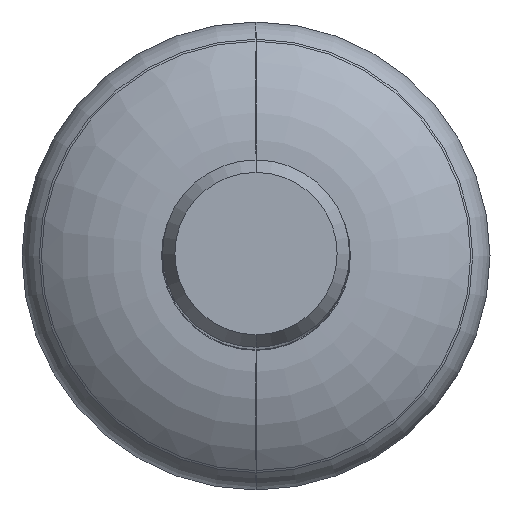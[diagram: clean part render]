
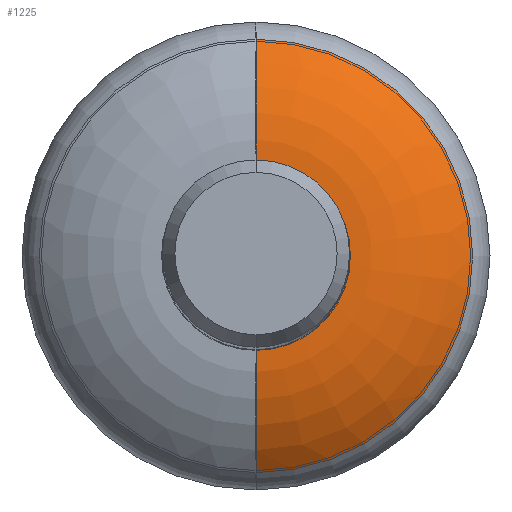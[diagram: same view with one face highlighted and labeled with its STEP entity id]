
A CAD part, top view. The second image highlights one B-rep face of the part: STEP entity #1225.
In plain terms, the highlighted toroidal (fillet/blend) face has major radius 15.132 mm and minor radius 30 mm.
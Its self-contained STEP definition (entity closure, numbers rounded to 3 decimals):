
#21 = CIRCLE ( 'NONE', #3782, 30. ) ;
#895 = EDGE_CURVE ( 'NONE', #4425, #4577, #21, .T. ) ;
#989 = CARTESIAN_POINT ( 'NONE',  ( 0., 15.132, -32. ) ) ;
#1003 = VERTEX_POINT ( 'NONE', #1881 ) ;
#1042 = AXIS2_PLACEMENT_3D ( 'NONE', #4312, #1619, #3600 ) ;
#1125 = CIRCLE ( 'NONE', #1042, 14.159 ) ;
#1176 = CARTESIAN_POINT ( 'NONE',  ( 0., 0., -9.277 ) ) ;
#1225 = ADVANCED_FACE ( 'NONE', ( #3305 ), #1358, .T. ) ;
#1283 = DIRECTION ( 'NONE',  ( -1., 0., 0. ) ) ;
#1358 = TOROIDAL_SURFACE ( 'NONE', #2609, 15.132, 30. ) ;
#1418 = EDGE_CURVE ( 'NONE', #1820, #1003, #2279, .T. ) ;
#1619 = DIRECTION ( 'NONE',  ( 0., 0., -1. ) ) ;
#1671 = ORIENTED_EDGE ( 'NONE', *, *, #2411, .T. ) ;
#1716 = CIRCLE ( 'NONE', #2222, 34.719 ) ;
#1740 = DIRECTION ( 'NONE',  ( 0., 1., 0. ) ) ;
#1820 = VERTEX_POINT ( 'NONE', #3599 ) ;
#1881 = CARTESIAN_POINT ( 'NONE',  ( 0., 34.719, -9.277 ) ) ;
#2019 = ORIENTED_EDGE ( 'NONE', *, *, #895, .F. ) ;
#2222 = AXIS2_PLACEMENT_3D ( 'NONE', #1176, #4061, #3563 ) ;
#2245 = DIRECTION ( 'NONE',  ( 0., 0., -1. ) ) ;
#2279 = CIRCLE ( 'NONE', #3851, 30. ) ;
#2411 = EDGE_CURVE ( 'NONE', #1820, #4577, #1125, .T. ) ;
#2609 = AXIS2_PLACEMENT_3D ( 'NONE', #4240, #2245, #4701 ) ;
#2871 = ORIENTED_EDGE ( 'NONE', *, *, #4885, .F. ) ;
#3305 = FACE_OUTER_BOUND ( 'NONE', #3938, .T. ) ;
#3360 = ORIENTED_EDGE ( 'NONE', *, *, #1418, .F. ) ;
#3504 = DIRECTION ( 'NONE',  ( -1., 0., 0. ) ) ;
#3563 = DIRECTION ( 'NONE',  ( 0., 1., 0. ) ) ;
#3599 = CARTESIAN_POINT ( 'NONE',  ( 0., 14.159, -2.016 ) ) ;
#3600 = DIRECTION ( 'NONE',  ( 0., 1., 0. ) ) ;
#3782 = AXIS2_PLACEMENT_3D ( 'NONE', #3919, #3504, #4700 ) ;
#3851 = AXIS2_PLACEMENT_3D ( 'NONE', #989, #1283, #1740 ) ;
#3910 = CARTESIAN_POINT ( 'NONE',  ( 0., -14.159, -2.016 ) ) ;
#3919 = CARTESIAN_POINT ( 'NONE',  ( 0., -15.132, -32. ) ) ;
#3938 = EDGE_LOOP ( 'NONE', ( #3360, #1671, #2019, #2871 ) ) ;
#4061 = DIRECTION ( 'NONE',  ( 0., 0., -1. ) ) ;
#4240 = CARTESIAN_POINT ( 'NONE',  ( 0., 0., -32. ) ) ;
#4312 = CARTESIAN_POINT ( 'NONE',  ( 0., 0., -2.016 ) ) ;
#4425 = VERTEX_POINT ( 'NONE', #4948 ) ;
#4577 = VERTEX_POINT ( 'NONE', #3910 ) ;
#4700 = DIRECTION ( 'NONE',  ( 0., -1., 0. ) ) ;
#4701 = DIRECTION ( 'NONE',  ( 0., 1., 0. ) ) ;
#4885 = EDGE_CURVE ( 'NONE', #1003, #4425, #1716, .T. ) ;
#4948 = CARTESIAN_POINT ( 'NONE',  ( 0., -34.719, -9.277 ) ) ;
